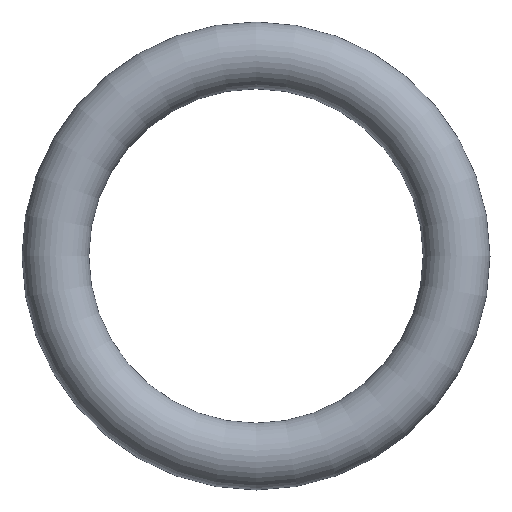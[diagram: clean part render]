
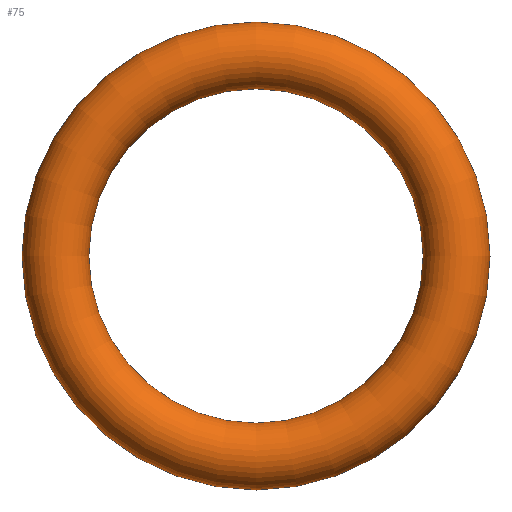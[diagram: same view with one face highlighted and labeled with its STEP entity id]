
A CAD part, front view. The second image highlights one B-rep face of the part: STEP entity #75.
In plain terms, the highlighted toroidal (fillet/blend) face has major radius 3 mm and minor radius 0.5 mm.
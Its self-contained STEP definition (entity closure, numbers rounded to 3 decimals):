
#75 = ADVANCED_FACE( '', ( #77 ), #78, .T. );
#77 = FACE_BOUND( '', #79, .T. );
#78 = TOROIDAL_SURFACE( '', #80, 3., 0.5 );
#79 = VERTEX_LOOP( '', #81 );
#80 = AXIS2_PLACEMENT_3D( '', #82, #83, #84 );
#81 = VERTEX_POINT( '', #85 );
#82 = CARTESIAN_POINT( '', ( 0., 0., 0. ) );
#83 = DIRECTION( '', ( 0., -1., 0. ) );
#84 = DIRECTION( '', ( 0., 0., -1. ) );
#85 = CARTESIAN_POINT( '', ( 0., 0., -3.5 ) );
